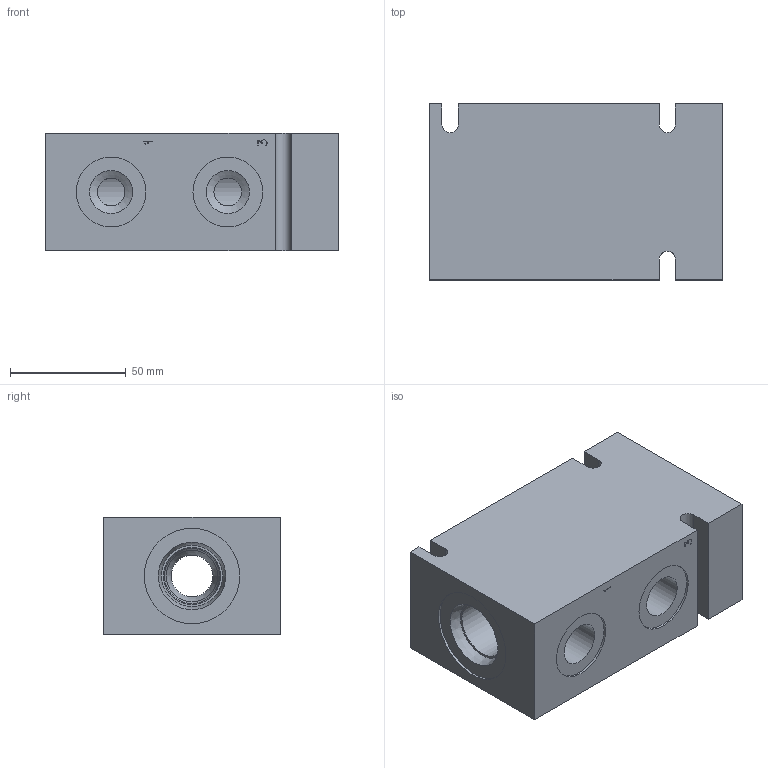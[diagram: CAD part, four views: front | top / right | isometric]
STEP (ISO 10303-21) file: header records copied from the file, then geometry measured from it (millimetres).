
FILE_DESCRIPTION( ( 'Unknown' ), '1' );
FILE_NAME( 'G:/Graphic Design/Graphic Design 2/Data Sheets/Delta Bodies/DRAWINGS/B-DHVC4.stp', 'Unknown', ( 'Unknown' ), ( 'Unknown' ), 'PSStep 16.0.42', 'Unknown', ' ' );
FILE_SCHEMA( ( 'AUTOMOTIVE_DESIGN { 1 0 10303 214 1 1 1 1 }' ) );
Length unit declared in the file: millimetre
Products named in the file (2): Assem1; B-DHVC4
Assembly tree (1 placements, depth 2):
  Assem1
    B-DHVC4
Bounding box: 127 x 76.2 x 50.8 mm (x, y, z)
Surface area: 54689.9 mm2 (no closed solid volume)
Topology: 0 solids, 145 shells, 145 faces, 719 edges, 684 vertices
Faces by surface type: plane 109, cylinder 28, cone 8
Full cylindrical faces by diameter (mm): 0.2 x4, 12 x3, 18 x1, 18.631 x8, 22.27 x1, 23.825 x1, 24.696 x2, 30.17 x4, 41.275 x1
Entity records: 8068 total; most frequent: CARTESIAN_POINT 2297, DIRECTION 736, ORIENTED_EDGE 664, EDGE_CURVE 664, VERTEX_POINT 664, B_SPLINE_CURVE_WITH_KNOTS 322, AXIS2_PLACEMENT_3D 247, LINE 242
